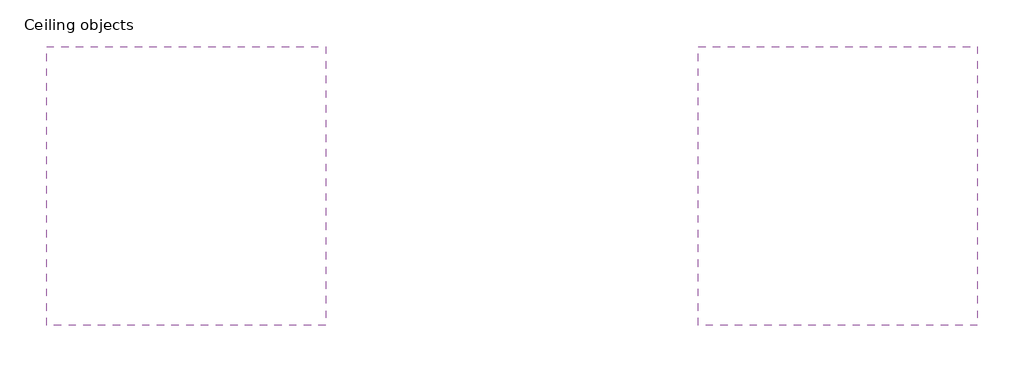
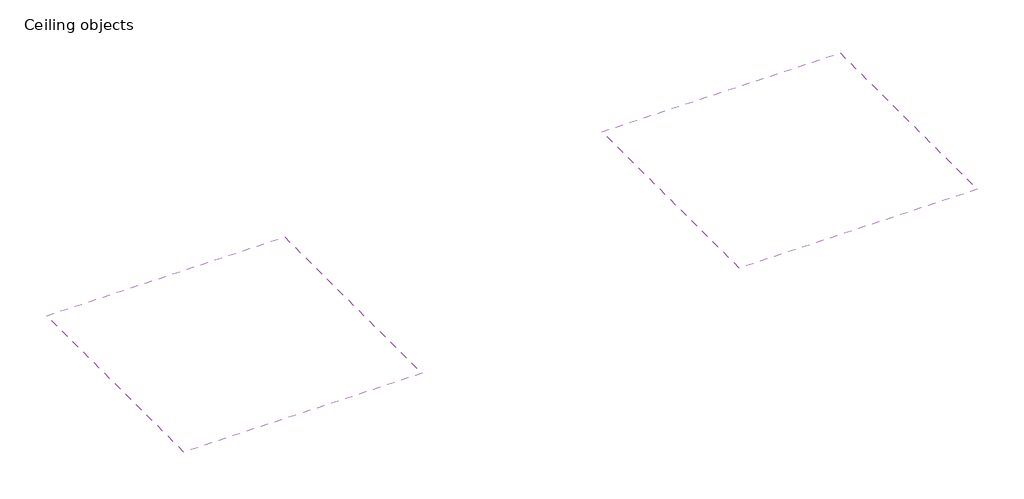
# One storey: 2 coverings.
"""IFC4 building model written with IfcOpenShell, lengths in millimetres."""

from ifc_helpers import new_model, si_unit, frame, origin, place, context, project, spatial, polyline, outline, extrude, element, save

model = new_model("IFC4")

# Units and contexts
model_context = context("Model", 3, world=origin())
ifc_project = project(units=[si_unit("LENGTHUNIT", "METRE", prefix="MILLI")], contexts=[model_context])

# Site, building, storey
site = spatial("IfcSite", under=ifc_project)
building = spatial("IfcBuilding", under=site)
storey = spatial("IfcBuildingStorey", under=building, Name="Ceiling objects", Elevation=0.0)

# Coverings
placement = place(None, origin())
element("IfcCovering", 1, ObjectType="Knauf Danoline Visona Regular 1200x400x12.5_S24_E", at=placement, inside=storey, context=model_context, shape_type="SweptSolid", body=[
    extrude(outline(polyline([(-4783.0103193, 8117.0281757), (-4783.0103193, 5117.0281757), (-7783.0103193, 5117.0281757), (-7783.0103193, 8117.0281757), (-4783.0103193, 8117.0281757)])), frame((0.0, 0.0, 2600.0), z_axis=(0.0, 0.0, 1.0), x_axis=(1.0, 0.0, 0.0)), (0.0, 0.0, 1.0), 84.0),
])
element("IfcCovering", 2, ObjectType="Knauf Danoline Visona Regular 1200x400x12.5_S24_E", at=placement, inside=storey, context=model_context, shape_type="SweptSolid", body=[
    extrude(outline(polyline([(2216.9899047, 8117.0281757), (2216.9899047, 5117.0281757), (-783.0100953, 5117.0281757), (-783.0100953, 8117.0281757), (2216.9899047, 8117.0281757)])), frame((0.0, 0.0, 2600.0), z_axis=(0.0, 0.0, 1.0), x_axis=(1.0, 0.0, 0.0)), (0.0, 0.0, 1.0), 84.0),
])

save(model, "model.ifc")
